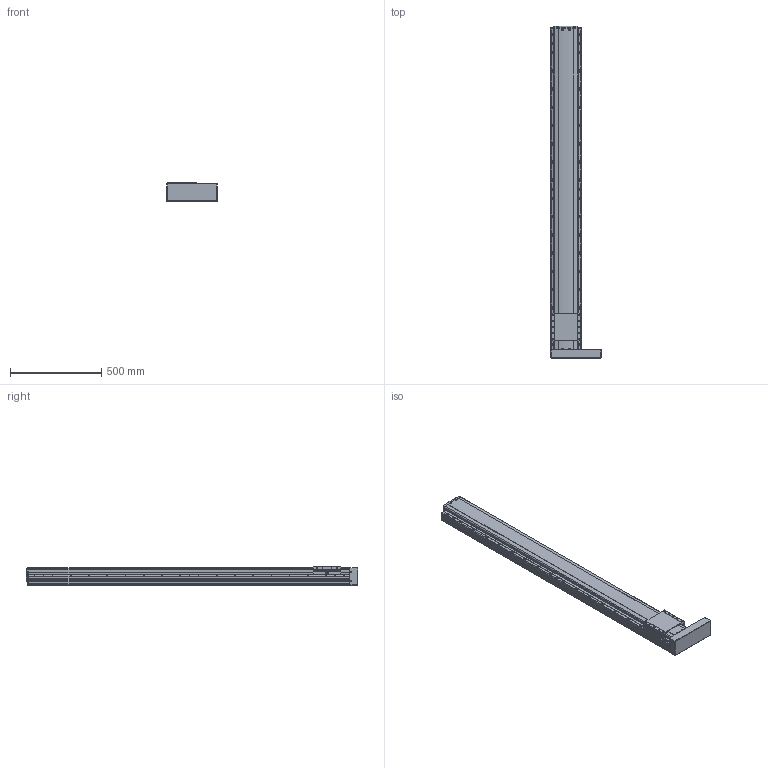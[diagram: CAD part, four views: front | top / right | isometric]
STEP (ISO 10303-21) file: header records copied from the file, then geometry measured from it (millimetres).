
FILE_DESCRIPTION(('STEP AP214'),'1');
FILE_NAME('Z:/Web/3D/PSA165/STP/PSA165-1500 (3D)/PSA165ㅁㅁ-1500PR.stp','2014-06-24T10:54:52',(' '),(' '),'Spatial InterOp 3D',' ',' ');
FILE_SCHEMA(('automotive_design'));
Length unit declared in the file: millimetre
Products named in the file (23): 스크루 : Round - M4.0 x 12.0; RRCV-PA160; BASE; 스크루 : Round - M4.0 x 10.0; RN15; Screw 20; SLIDE; FRCV; MTPL; 스크루 : Round - M3.0 x 6.0
Bounding box: 281.93 x 1820.8 x 104 mm (x, y, z)
Volume: 25455171.4 mm3; surface area: 1496618.8 mm2
Topology: 23 solids, 23 shells, 2215 faces, 6001 edges, 3809 vertices
Faces by surface type: plane 1124, cylinder 781, cone 225, sphere 44, bspline 25, torus 16
Entity records: 90747 total; most frequent: CARTESIAN_POINT 16598, DIRECTION 11827, ORIENTED_EDGE 11646, EDGE_CURVE 5823, AXIS2_PLACEMENT_3D 4052, VERTEX_POINT 3809, LINE 3723, VECTOR 3723
